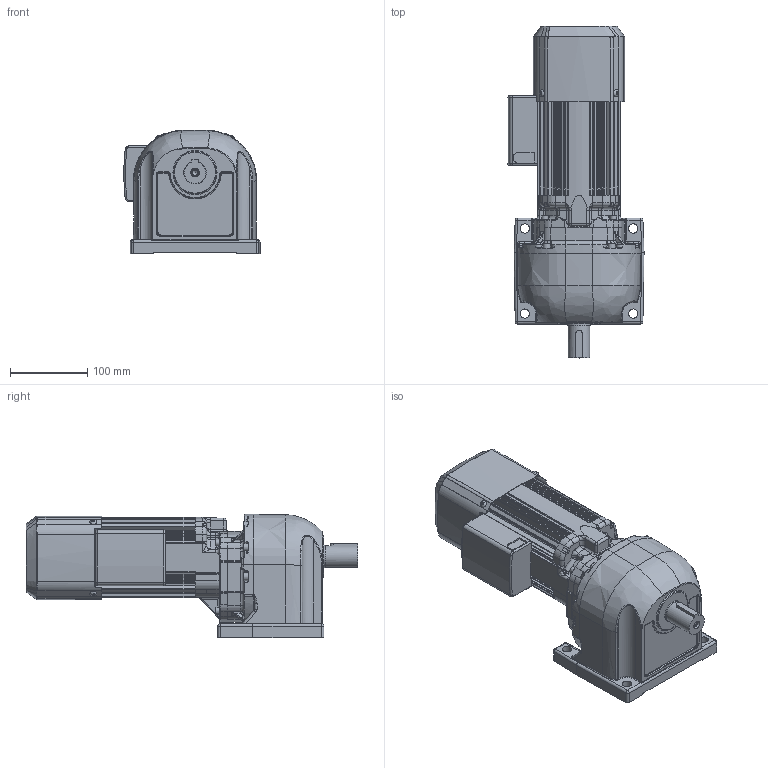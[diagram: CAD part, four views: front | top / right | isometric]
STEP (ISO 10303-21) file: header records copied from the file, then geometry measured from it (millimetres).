
FILE_DESCRIPTION( ( 'Unknown' ), '1' );
FILE_NAME( 'W:/gm/3D-WEB/GM-SS(単相)/完成品/パーツ/完成品/kai_ssb_01_270-450.stp', 'Unknown', ( 'Unknown' ), ( 'Unknown' ), 'PSStep 11.0', 'Unknown', ' ' );
FILE_SCHEMA( ( 'AUTOMOTIVE_DESIGN { 1 0 10303 214 1 1 1 1 }' ) );
Length unit declared in the file: millimetre
Products named in the file (7): P265374Ｈ10_ｽﾃｰﾀﾌﾚｰ
Bounding box: 175.87 x 429 x 159.96 mm (x, y, z)
Volume: 4092059 mm3; surface area: 489456.4 mm2
Topology: 7 solids, 42 shells, 1929 faces, 4849 edges, 3018 vertices
Faces by surface type: cylinder 796, plane 742, bspline 172, torus 167, sphere 26, cone 20, offset 6
Full cylindrical faces by diameter (mm): 3.3 x4, 4 x4, 4.134 x8, 4.5 x8, 4.8 x4, 4.917 x8, 5 x4, 5.5 x4, 6 x8, 6.8 x1, 7 x12, 8 x4, 8.2 x1, 8.5 x6, 10 x8, 12 x6, 14 x1, 15 x1, 16 x1, 24 x1, 27 x1, 28 x1, 29 x1, 29.1 x1, 30 x1, 32 x1, 35 x1, 36 x1, 53 x1, 62 x1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
Entity records: 97606 total; most frequent: CARTESIAN_POINT 37289, DIRECTION 9556, ORIENTED_EDGE 9138, EDGE_CURVE 4569, AXIS2_PLACEMENT_3D 3771, VERTEX_POINT 2963, EDGE_LOOP 2197, FACE_OUTER_BOUND 2059
